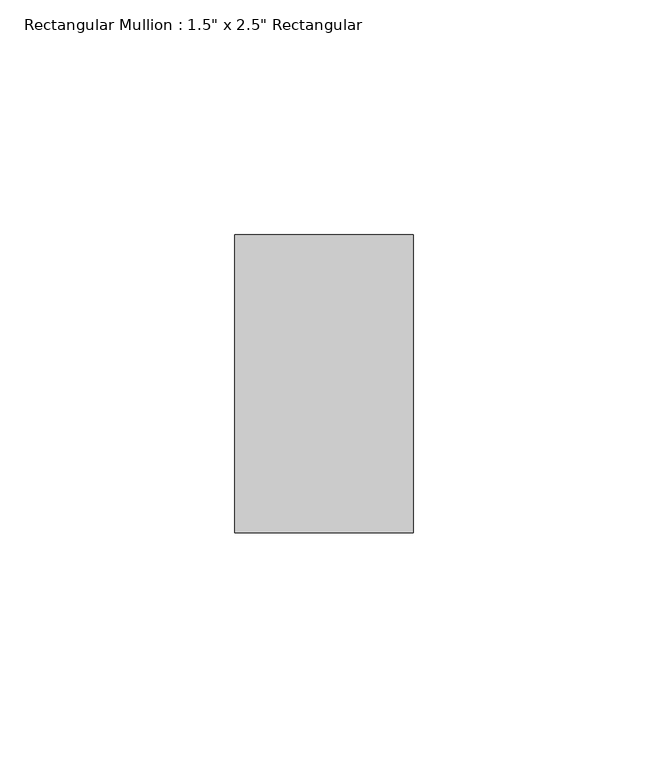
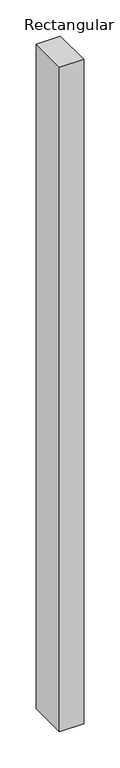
"""IFC4 building model written with IfcOpenShell, lengths in millimetres: member geometry."""

from ifc_helpers import new_model, si_unit, frame, origin, place, context, project, spatial, polyline, outline, extrude, source, transform, mapped, element, save


def member_bd80eb51(model_context):
    return source(origin(), model_context, "Body", "SweptSolid", [
        extrude(outline(polyline([(0.0, 31.75), (0.0, -31.75), (-38.1, -31.75), (-38.1, 31.75), (0.0, 31.75)])), frame((0.0, 0.0, -1114.425), z_axis=(0.0, 0.0, 1.0), x_axis=(1.0, 0.0, 0.0)), (0.0, 0.0, 1.0), 1114.425),
    ])


if __name__ == "__main__":
    model = new_model("IFC4")
    model_context = context("Model", 3, world=origin())
    ifc_project = project(units=[si_unit("LENGTHUNIT", "METRE", prefix="MILLI")], contexts=[model_context])
    site = spatial("IfcSite", under=ifc_project)
    building = spatial("IfcBuilding", under=site)
    placement = place(None, origin())
    member_shape = member_bd80eb51(model_context)
    element("IfcMember", 1, ObjectType="Rectangular Mullion : 1.5\" x 2.5\" Rectangular", at=placement, inside=building, context=model_context, shape_type="MappedRepresentation", body=[
        mapped(member_shape, transform((0.0, 0.0, 0.0), x_axis=(1.0, 0.0, 0.0), y_axis=(0.0, 1.0, 0.0), z_axis=(0.0, 0.0, 1.0))),
    ])
    save(model, "model.ifc")
